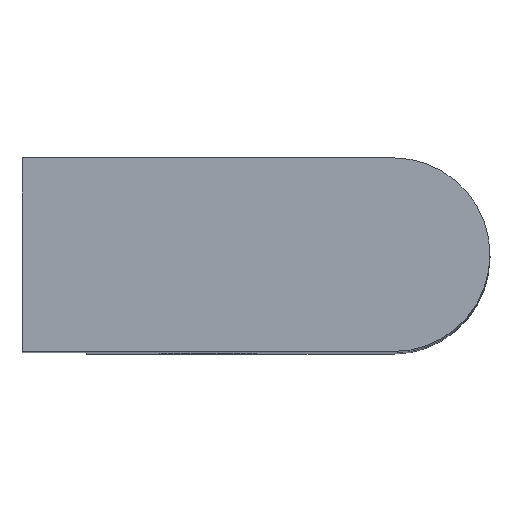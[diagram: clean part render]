
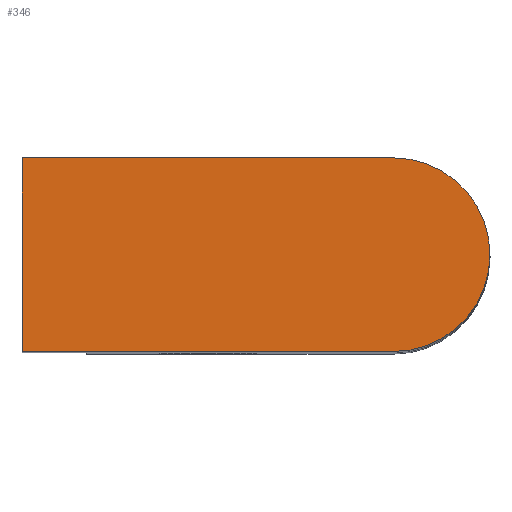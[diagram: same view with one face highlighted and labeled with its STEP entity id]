
A CAD part, top view. The second image highlights one B-rep face of the part: STEP entity #346.
In plain terms, the highlighted planar face has unit normal (0, 0, 1) as drawn and (0, 0, -1) by its records, which use the part's own axes.
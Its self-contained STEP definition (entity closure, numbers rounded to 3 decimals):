
#258 = EDGE_CURVE ( 'NONE', #259, #260, #3834, .T. ) ;
#259 = VERTEX_POINT ( 'NONE', #3830 ) ;
#260 = VERTEX_POINT ( 'NONE', #3829 ) ;
#303 = EDGE_CURVE ( 'NONE', #319, #2062, #3886, .T. ) ;
#318 = EDGE_CURVE ( 'NONE', #260, #319, #3927, .T. ) ;
#319 = VERTEX_POINT ( 'NONE', #3923 ) ;
#346 = ADVANCED_FACE ( 'NONE', ( #3949 ), #3948, .F. ) ;
#347 = EDGE_LOOP ( 'NONE', ( #348, #349, #351, #401, #402 ) ) ;
#348 = ORIENTED_EDGE ( 'NONE', *, *, #258, .F. ) ;
#349 = ORIENTED_EDGE ( 'NONE', *, *, #355, .F. ) ;
#351 = ORIENTED_EDGE ( 'NONE', *, *, #2061, .F. ) ;
#355 = EDGE_CURVE ( 'NONE', #2055, #259, #4005, .T. ) ;
#401 = ORIENTED_EDGE ( 'NONE', *, *, #303, .F. ) ;
#402 = ORIENTED_EDGE ( 'NONE', *, *, #318, .F. ) ;
#2055 = VERTEX_POINT ( 'NONE', #5479 ) ;
#2061 = EDGE_CURVE ( 'NONE', #2062, #2055, #5472, .T. ) ;
#2062 = VERTEX_POINT ( 'NONE', #5467 ) ;
#3829 = CARTESIAN_POINT ( 'NONE',  ( 23., 6., 0. ) ) ;
#3830 = CARTESIAN_POINT ( 'NONE',  ( 23., -6., 0. ) ) ;
#3831 = DIRECTION ( 'NONE',  ( 0., 1., 0. ) ) ;
#3832 = VECTOR ( 'NONE', #3831, 1000. ) ;
#3833 = CARTESIAN_POINT ( 'NONE',  ( 23., 6., 0. ) ) ;
#3834 = LINE ( 'NONE', #3833, #3832 ) ;
#3882 = DIRECTION ( 'NONE',  ( 1., 0., 0. ) ) ;
#3883 = DIRECTION ( 'NONE',  ( 0., 0., 1. ) ) ;
#3884 = CARTESIAN_POINT ( 'NONE',  ( 0., 0., 0. ) ) ;
#3885 = AXIS2_PLACEMENT_3D ( 'NONE', #3884, #3883, #3882 ) ;
#3886 = CIRCLE ( 'NONE', #3885, 6. ) ;
#3923 = CARTESIAN_POINT ( 'NONE',  ( 0., 6., 0. ) ) ;
#3924 = DIRECTION ( 'NONE',  ( -1., 0., 0. ) ) ;
#3925 = VECTOR ( 'NONE', #3924, 1000. ) ;
#3926 = CARTESIAN_POINT ( 'NONE',  ( 0., 6., 0. ) ) ;
#3927 = LINE ( 'NONE', #3926, #3925 ) ;
#3944 = DIRECTION ( 'NONE',  ( 1., 0., 0. ) ) ;
#3945 = DIRECTION ( 'NONE',  ( 0., 0., 1. ) ) ;
#3946 = CARTESIAN_POINT ( 'NONE',  ( 0., 0., 0. ) ) ;
#3947 = AXIS2_PLACEMENT_3D ( 'NONE', #3946, #3945, #3944 ) ;
#3948 = PLANE ( 'NONE',  #3947 ) ;
#3949 = FACE_OUTER_BOUND ( 'NONE', #347, .T. ) ;
#4002 = DIRECTION ( 'NONE',  ( 1., 0., 0. ) ) ;
#4003 = VECTOR ( 'NONE', #4002, 1000. ) ;
#4004 = CARTESIAN_POINT ( 'NONE',  ( 0., -6., 0. ) ) ;
#4005 = LINE ( 'NONE', #4004, #4003 ) ;
#5467 = CARTESIAN_POINT ( 'NONE',  ( -6., 0., 0. ) ) ;
#5468 = DIRECTION ( 'NONE',  ( 1., 0., 0. ) ) ;
#5469 = DIRECTION ( 'NONE',  ( 0., 0., 1. ) ) ;
#5470 = CARTESIAN_POINT ( 'NONE',  ( 0., 0., 0. ) ) ;
#5471 = AXIS2_PLACEMENT_3D ( 'NONE', #5470, #5469, #5468 ) ;
#5472 = CIRCLE ( 'NONE', #5471, 6. ) ;
#5479 = CARTESIAN_POINT ( 'NONE',  ( 0., -6., 0. ) ) ;
